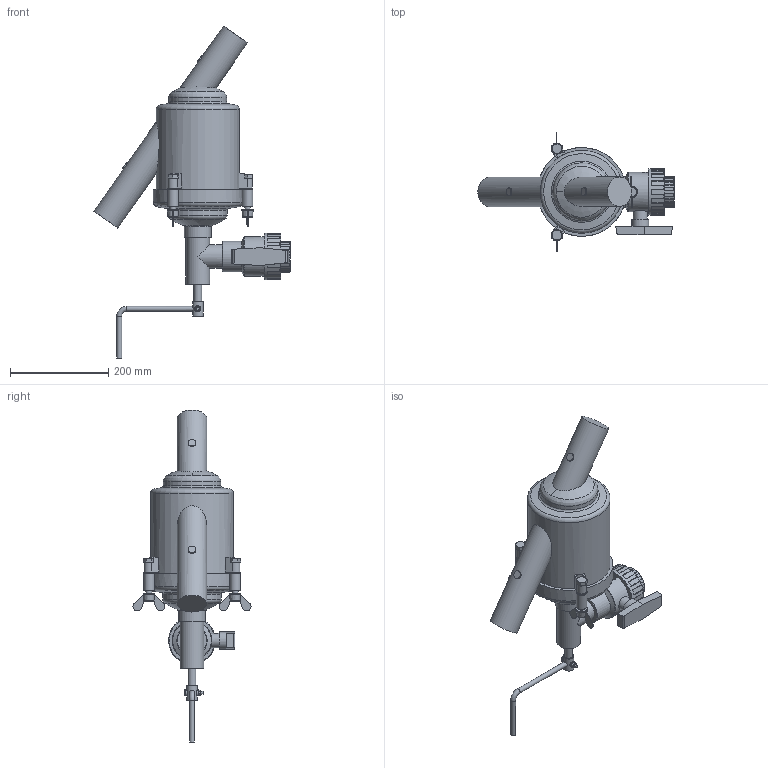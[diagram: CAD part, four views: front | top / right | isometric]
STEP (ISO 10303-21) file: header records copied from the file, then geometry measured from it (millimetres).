
FILE_DESCRIPTION (( 'STEP AP203' ), '1' );
FILE_NAME ('2-steel scanaway_fl.STEP', '2016-07-06T11:35:34', ( 'user' ), ( 'Hewlett-Packard Company' ), 'SwSTEP 2.0', 'SolidWorks 2015', '' );
FILE_SCHEMA (( 'CONFIG_CONTROL_DESIGN' ));
Length unit declared in the file: millimetre
Products named in the file (1): 2-steel scanaway_fl
Bounding box: 399.63 x 240.34 x 675.78 mm (x, y, z)
Volume: 7355170.8 mm3; surface area: 380877.4 mm2
Topology: 1 solids, 1 shells, 578 faces, 1524 edges, 972 vertices
Faces by surface type: plane 294, cylinder 146, bspline 81, cone 29, torus 28
Full cylindrical faces by diameter (mm): 6 x1, 10 x2, 12 x9, 12.5 x2, 16 x4, 16.4 x1, 21.3 x4, 22 x3, 24 x3, 29 x1, 35 x1, 40.5 x1, 40.89 x2, 48.25 x2, 54.5 x1, 60 x2, 62 x1, 80 x1, 95 x1, 117.7 x1, 119.201 x1, 168.5 x1, 180.8 x1
Entity records: 22969 total; most frequent: CARTESIAN_POINT 10179, ORIENTED_EDGE 2814, DIRECTION 2295, EDGE_CURVE 1407, VERTEX_POINT 923, AXIS2_PLACEMENT_3D 857, EDGE_LOOP 690, FACE_OUTER_BOUND 636
